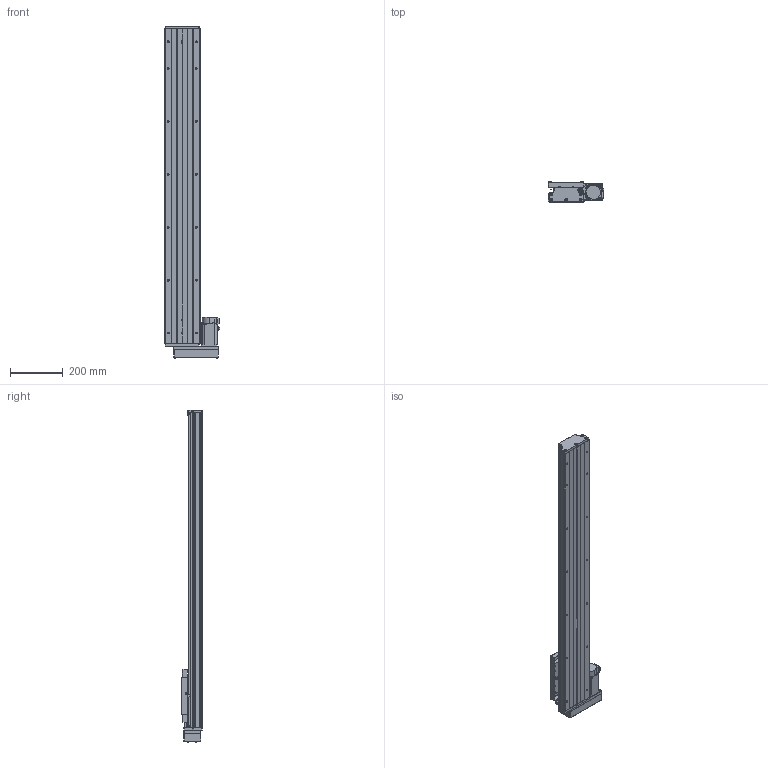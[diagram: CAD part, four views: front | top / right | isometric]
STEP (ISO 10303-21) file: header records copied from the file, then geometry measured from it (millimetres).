
FILE_DESCRIPTION (( 'STEP AP203' ), '1' );
FILE_NAME ('GTH14-950-BR-M40-C4.step', '2023-06-30T08:56:14', ( '微软用户' ), ( '微软中国' ), 'SwSTEP 2.0', 'SolidWorks 2020', '' );
FILE_SCHEMA (( 'CONFIG_CONTROL_DESIGN' ));
Length unit declared in the file: millimetre
Products named in the file (19): GBT 70.2-M3¡Á5_M3¡Á6; GTH14-950-BR-M40-C4; CTHA60-017; す晦芛蹟隊 M3℅5; GTH14-001_950; EE_SX911P_R; HG-KN43J-S100; GTH14-002_GTH14-002; CTHA60-016; GBT 70.2-M4¡Á35_M4¡Á35; GTH14-004; GBT 70.1-M3℅5; GTH14-015-2_CTHA86-015-2; GTH14-005; GBT77-2000 M3×3; GTH14-033; GB1155-6X6; GTH14-031; GBT70.1 M5℅16
Assembly tree (58 placements, depth 2):
  GTH14-950-BR-M40-C4
    GTH14-001_950
    GTH14-002_GTH14-002
    GTH14-004
    GTH14-005
    GB1155-6X6  x2
    GBT70.1 M5℅16  x10
    CTHA60-017  x3
    EE_SX911P_R  x3
    CTHA60-016  x2
    GBT 70.1-M3℅5  x6
    GBT77-2000 M3×3  x6
    GTH14-031
    GBT 70.2-M3¡Á5_M3¡Á6  x8
    す晦芛蹟隊 M3℅5  x6
    HG-KN43J-S100
    GBT 70.2-M4¡Á35_M4¡Á35  x4
    GTH14-015-2_CTHA86-015-2
    GTH14-033
Bounding box: 209.3 x 78 x 1254.2 mm (x, y, z)
Volume: 6724369.7 mm3; surface area: 1088999.4 mm2
Topology: 61 solids, 61 shells, 2473 faces, 5881 edges, 3626 vertices
Faces by surface type: plane 1311, cylinder 672, cone 314, torus 124, sphere 32, bspline 20
Entity records: 44774 total; most frequent: CARTESIAN_POINT 9957, DIRECTION 6609, ORIENTED_EDGE 6452, EDGE_CURVE 3226, AXIS2_PLACEMENT_3D 2270, LINE 2069, VECTOR 2069, VERTEX_POINT 2044
